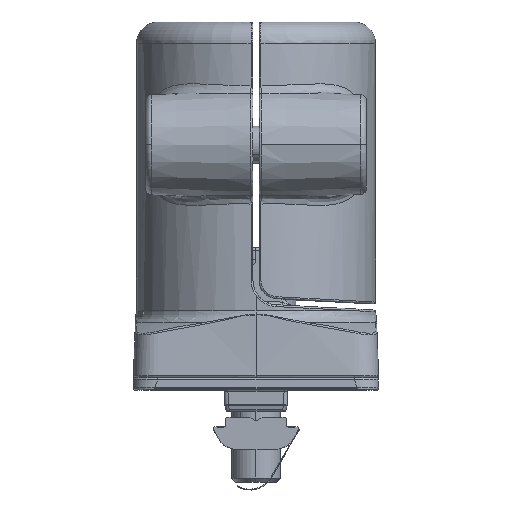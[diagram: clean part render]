
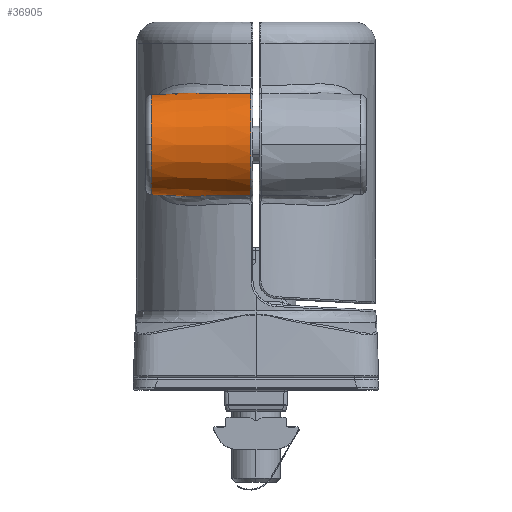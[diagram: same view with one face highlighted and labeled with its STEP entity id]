
A CAD part, top view. The second image highlights one B-rep face of the part: STEP entity #36905.
In plain terms, the highlighted conical face has half-angle 3 degrees and reference radius 9 mm.
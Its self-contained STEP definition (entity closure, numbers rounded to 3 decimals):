
#683 = CARTESIAN_POINT ( 'NONE',  ( -17.052, 45.024, 12.901 ) ) ;
#1329 = CARTESIAN_POINT ( 'NONE',  ( -10.153, 29.581, 18.142 ) ) ;
#1705 = CARTESIAN_POINT ( 'NONE',  ( -14.104, 29.809, 15.723 ) ) ;
#3493 = CARTESIAN_POINT ( 'NONE',  ( -6.171, 46.303, 19.614 ) ) ;
#3869 = CARTESIAN_POINT ( 'NONE',  ( -14.401, 46.136, 15.489 ) ) ;
#4241 = CARTESIAN_POINT ( 'NONE',  ( -13.178, 46.328, 16.413 ) ) ;
#4608 = CARTESIAN_POINT ( 'NONE',  ( -2.368, 46.247, 20.351 ) ) ;
#6016 = VERTEX_POINT ( 'NONE', #18875 ) ;
#8739 = CARTESIAN_POINT ( 'NONE',  ( -8.38, 46.377, 18.905 ) ) ;
#9703 = AXIS2_PLACEMENT_3D ( 'NONE', #57420, #57794, #34893 ) ;
#12219 = CARTESIAN_POINT ( 'NONE',  ( -11.531, 29.587, 17.428 ) ) ;
#16096 = AXIS2_PLACEMENT_3D ( 'NONE', #41846, #36222, #35490 ) ;
#16860 = FACE_OUTER_BOUND ( 'NONE', #46478, .T. ) ;
#17030 = EDGE_CURVE ( 'NONE', #21265, #69906, #35458, .T. ) ;
#17826 = CARTESIAN_POINT ( 'NONE',  ( -12.537, 29.623, 16.837 ) ) ;
#18192 = CARTESIAN_POINT ( 'NONE',  ( -11.189, 29.581, 17.616 ) ) ;
#18555 = CARTESIAN_POINT ( 'NONE',  ( -3.902, 29.75, 20.144 ) ) ;
#18875 = CARTESIAN_POINT ( 'NONE',  ( -17.052, 30.976, 12.901 ) ) ;
#20326 = CARTESIAN_POINT ( 'NONE',  ( -12.534, 46.377, 16.839 ) ) ;
#21265 = VERTEX_POINT ( 'NONE', #63275 ) ;
#21818 = CARTESIAN_POINT ( 'NONE',  ( -14.101, 46.192, 15.726 ) ) ;
#22861 = DIRECTION ( 'NONE',  ( 1., 0., 0. ) ) ;
#22878 = CARTESIAN_POINT ( 'NONE',  ( -0.816, 29.69, 20.412 ) ) ;
#23799 = CARTESIAN_POINT ( 'NONE',  ( -16.601, 30.636, 13.437 ) ) ;
#24163 = CARTESIAN_POINT ( 'NONE',  ( -8.395, 29.612, 18.941 ) ) ;
#24768 = EDGE_CURVE ( 'NONE', #60156, #6016, #65174, .T. ) ;
#26136 = ORIENTED_EDGE ( 'NONE', *, *, #17030, .T. ) ;
#27417 = CARTESIAN_POINT ( 'NONE',  ( -9.097, 46.4, 18.622 ) ) ;
#28970 = DIRECTION ( 'NONE',  ( -1., 0., 0. ) ) ;
#29428 = CARTESIAN_POINT ( 'NONE',  ( -17.052, 30.976, 12.901 ) ) ;
#30158 = CARTESIAN_POINT ( 'NONE',  ( -0.816, 29.69, 20.412 ) ) ;
#30958 = CONICAL_SURFACE ( 'NONE', #63322, 9., 0.052 ) ;
#31579 = CARTESIAN_POINT ( 'NONE',  ( -15.272, 45.916, 14.747 ) ) ;
#33500 = EDGE_CURVE ( 'NONE', #69590, #21265, #67150, .T. ) ;
#33986 = B_SPLINE_CURVE_WITH_KNOTS ( 'NONE', 3,
 ( #29428, #23799, #40692, #52329, #51967, #69218, #1705, #57234, #17826, #12219, #18192, #52684, #1329, #24163, #47094, #18555, #64318, #30158 ),
 .UNSPECIFIED., .F., .F.,
 ( 4, 2, 2, 2, 2, 2, 2, 2, 4 ),
 ( 0.037, 0.039, 0.04, 0.041, 0.044, 0.045, 0.046, 0.051, 0.055 ),
 .UNSPECIFIED. ) ;
#34760 = AXIS2_PLACEMENT_3D ( 'NONE', #66567, #28970, #40603 ) ;
#34893 = DIRECTION ( 'NONE',  ( 0., 0., 1. ) ) ;
#35458 = B_SPLINE_CURVE_WITH_KNOTS ( 'NONE', 3,
 ( #61609, #4608, #37966, #3493, #55610, #8739, #27417, #43221, #50354, #20326, #4241, #21818, #3869, #43964, #31579, #43597, #66863, #38335 ),
 .UNSPECIFIED., .F., .F.,
 ( 4, 2, 2, 2, 2, 2, 2, 2, 4 ),
 ( 0., 0.005, 0.007, 0.01, 0.012, 0.014, 0.015, 0.017, 0.019 ),
 .UNSPECIFIED. ) ;
#35490 = DIRECTION ( 'NONE',  ( 0., 0., 1. ) ) ;
#36222 = DIRECTION ( 'NONE',  ( 1., 0., 0. ) ) ;
#36905 = ADVANCED_FACE ( 'NONE', ( #16860 ), #30958, .T. ) ;
#37966 = CARTESIAN_POINT ( 'NONE',  ( -3.901, 46.25, 20.145 ) ) ;
#38335 = CARTESIAN_POINT ( 'NONE',  ( -17.052, 45.024, 12.901 ) ) ;
#40470 = DIRECTION ( 'NONE',  ( 0., 0., -1. ) ) ;
#40603 = DIRECTION ( 'NONE',  ( 0., 0., -1. ) ) ;
#40692 = CARTESIAN_POINT ( 'NONE',  ( -16.101, 30.38, 13.968 ) ) ;
#41846 = CARTESIAN_POINT ( 'NONE',  ( -17.052, 38., 17. ) ) ;
#43221 = CARTESIAN_POINT ( 'NONE',  ( -10.501, 46.425, 17.984 ) ) ;
#43597 = CARTESIAN_POINT ( 'NONE',  ( -16.098, 45.621, 13.97 ) ) ;
#43964 = CARTESIAN_POINT ( 'NONE',  ( -14.986, 45.998, 15. ) ) ;
#46478 = EDGE_LOOP ( 'NONE', ( #49237, #58064, #26136, #48176, #70470 ) ) ;
#47094 = CARTESIAN_POINT ( 'NONE',  ( -6.932, 29.679, 19.436 ) ) ;
#48176 = ORIENTED_EDGE ( 'NONE', *, *, #66329, .T. ) ;
#49237 = ORIENTED_EDGE ( 'NONE', *, *, #57899, .T. ) ;
#50354 = CARTESIAN_POINT ( 'NONE',  ( -11.19, 46.426, 17.628 ) ) ;
#51967 = CARTESIAN_POINT ( 'NONE',  ( -14.991, 30.003, 14.995 ) ) ;
#52329 = CARTESIAN_POINT ( 'NONE',  ( -15.278, 30.086, 14.741 ) ) ;
#52684 = CARTESIAN_POINT ( 'NONE',  ( -10.501, 29.578, 17.973 ) ) ;
#55610 = CARTESIAN_POINT ( 'NONE',  ( -6.918, 46.328, 19.4 ) ) ;
#57015 = CARTESIAN_POINT ( 'NONE',  ( -0.5, 38., 17. ) ) ;
#57234 = CARTESIAN_POINT ( 'NONE',  ( -13.181, 29.672, 16.411 ) ) ;
#57420 = CARTESIAN_POINT ( 'NONE',  ( -17.052, 38., 17. ) ) ;
#57794 = DIRECTION ( 'NONE',  ( 1., 0., 0. ) ) ;
#57899 = EDGE_CURVE ( 'NONE', #6016, #69590, #33986, .T. ) ;
#58064 = ORIENTED_EDGE ( 'NONE', *, *, #33500, .T. ) ;
#60156 = VERTEX_POINT ( 'NONE', #71723 ) ;
#61609 = CARTESIAN_POINT ( 'NONE',  ( -0.816, 46.31, 20.412 ) ) ;
#63275 = CARTESIAN_POINT ( 'NONE',  ( -0.816, 46.31, 20.412 ) ) ;
#63322 = AXIS2_PLACEMENT_3D ( 'NONE', #57015, #22861, #40470 ) ;
#64318 = CARTESIAN_POINT ( 'NONE',  ( -2.368, 29.753, 20.351 ) ) ;
#65174 = CIRCLE ( 'NONE', #16096, 8.133 ) ;
#66329 = EDGE_CURVE ( 'NONE', #69906, #60156, #73181, .T. ) ;
#66567 = CARTESIAN_POINT ( 'NONE',  ( -0.816, 38., 17. ) ) ;
#66863 = CARTESIAN_POINT ( 'NONE',  ( -16.6, 45.365, 13.438 ) ) ;
#67150 = CIRCLE ( 'NONE', #34760, 8.983 ) ;
#69218 = CARTESIAN_POINT ( 'NONE',  ( -14.405, 29.864, 15.486 ) ) ;
#69590 = VERTEX_POINT ( 'NONE', #22878 ) ;
#69906 = VERTEX_POINT ( 'NONE', #683 ) ;
#70470 = ORIENTED_EDGE ( 'NONE', *, *, #24768, .T. ) ;
#71723 = CARTESIAN_POINT ( 'NONE',  ( -17.052, 38., 25.133 ) ) ;
#73181 = CIRCLE ( 'NONE', #9703, 8.133 ) ;
